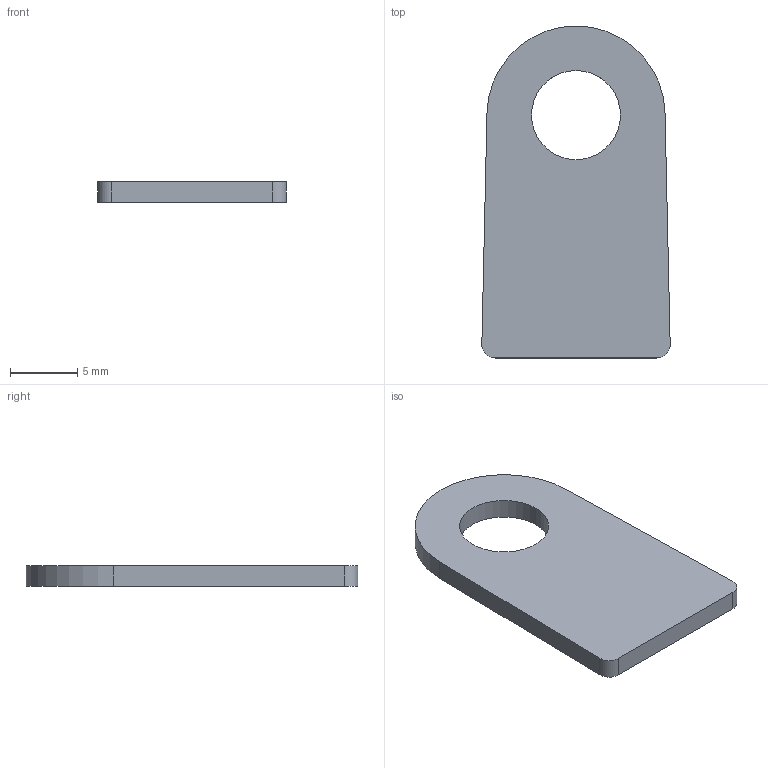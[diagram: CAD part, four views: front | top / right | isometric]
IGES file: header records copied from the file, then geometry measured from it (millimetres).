
Start section: START RECORD GO HERE.
Global section: file name: bracket_power_distribution.igs; native system: IBM CATIA IGES - CATIA Version 5 Release 19 ; preprocessor: CATIA Version 5 Release 19 ; author: Romain; organization: DESKTOP-JML8TJ6; date: 20181206.201148; units: millimetre
Bounding box: 13.95 x 24.6 x 1.5 mm (x, y, z)
Surface area: 693 mm2 (no closed solid volume)
Topology: 0 solids, 0 shells, 10 faces, 50 edges, 52 vertices
Faces by surface type: revolution 5, plane 5
